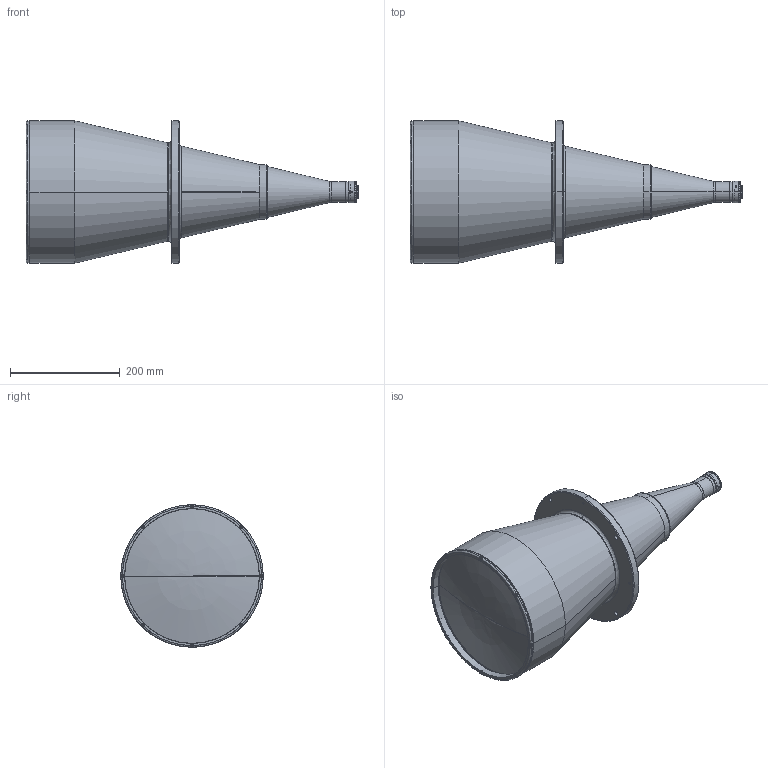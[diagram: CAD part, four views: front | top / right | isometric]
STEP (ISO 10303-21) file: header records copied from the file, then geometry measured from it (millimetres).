
FILE_DESCRIPTION(('LS-TCL-0146'),'2;1');
FILE_NAME('LS-TCL-0146.stp','2026-10-15T21:54:11',('LumaSpec Vision'),('LumaSpec Vision'),'LumaSpec Vision','LumaSpec Vision','');
FILE_SCHEMA(('AUTOMOTIVE_DESIGN { 1 0 10303 214 1 1 1 1 }'));
Length unit declared in the file: millimetre
Products named in the file (225): LumaSpec Vision
Assembly tree (224 placements, depth 2):
  LumaSpec Vision
    LumaSpec Vision
    LumaSpec Vision
    LumaSpec Vision
    LumaSpec Vision
    LumaSpec Vision
    LumaSpec Vision
    LumaSpec Vision
    LumaSpec Vision
    LumaSpec Vision
    LumaSpec Vision
    LumaSpec Vision
    LumaSpec Vision
    LumaSpec Vision
    LumaSpec Vision
    LumaSpec Vision
    LumaSpec Vision
    LumaSpec Vision
    LumaSpec Vision
    LumaSpec Vision
    LumaSpec Vision
    LumaSpec Vision
    LumaSpec Vision
    LumaSpec Vision
    LumaSpec Vision
    LumaSpec Vision
    LumaSpec Vision
    LumaSpec Vision
    LumaSpec Vision
    LumaSpec Vision
    LumaSpec Vision
    LumaSpec Vision
    LumaSpec Vision
    LumaSpec Vision
    LumaSpec Vision
    LumaSpec Vision
    LumaSpec Vision
    LumaSpec Vision
    LumaSpec Vision
    LumaSpec Vision
    LumaSpec Vision
    LumaSpec Vision
    LumaSpec Vision
    LumaSpec Vision
    LumaSpec Vision
    LumaSpec Vision
    LumaSpec Vision
    LumaSpec Vision
    LumaSpec Vision
    LumaSpec Vision
    LumaSpec Vision
    LumaSpec Vision
    LumaSpec Vision
    LumaSpec Vision
    LumaSpec Vision
    LumaSpec Vision
    LumaSpec Vision
    LumaSpec Vision
    LumaSpec Vision
    LumaSpec Vision
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Bounding box: 606.12 x 260 x 260 mm (x, y, z)
Surface area: 451399.6 mm2 (no closed solid volume)
Topology: 0 solids, 224 shells, 224 faces, 4270 edges, 4257 vertices
Faces by surface type: revolution 112, bspline 112
Entity records: 70848 total; most frequent: CARTESIAN_POINT 29001, B_SPLINE_CURVE_WITH_KNOTS 7654, ORIENTED_EDGE 4257, EDGE_CURVE 4257, VERTEX_POINT 4257, SURFACE_CURVE 4257, PCURVE 4257, DEFINITIONAL_REPRESENTATION 4257
